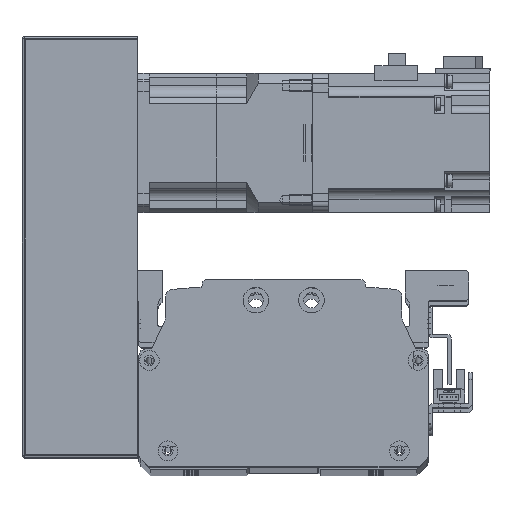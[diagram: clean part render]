
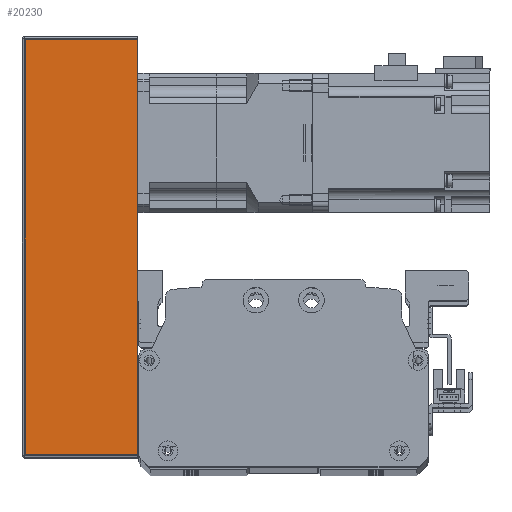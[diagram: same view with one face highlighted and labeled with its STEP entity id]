
A CAD part, top view. The second image highlights one B-rep face of the part: STEP entity #20230.
In plain terms, the highlighted planar face has unit normal (0, 0, 1) as drawn and (0, -1, 0) by its records, which use the part's own axes.
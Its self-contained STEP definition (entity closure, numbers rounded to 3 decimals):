
#604=PLANE('',#22258);
#1823=LINE('',#33440,#3447);
#1832=LINE('',#33479,#3456);
#1835=LINE('',#33489,#3459);
#1836=LINE('',#33491,#3460);
#3447=VECTOR('',#27062,10.);
#3456=VECTOR('',#27111,10.);
#3459=VECTOR('',#27128,10.);
#3460=VECTOR('',#27131,10.);
#5906=FACE_OUTER_BOUND('',#7422,.T.);
#7422=EDGE_LOOP('',(#17415,#17416,#17417,#17418));
#10365=VERTEX_POINT('',#33437);
#10366=VERTEX_POINT('',#33439);
#10375=VERTEX_POINT('',#33476);
#10376=VERTEX_POINT('',#33478);
#12845=EDGE_CURVE('',#10365,#10366,#1823,.T.);
#12865=EDGE_CURVE('',#10375,#10376,#1832,.T.);
#12871=EDGE_CURVE('',#10376,#10365,#1835,.T.);
#12872=EDGE_CURVE('',#10366,#10375,#1836,.T.);
#17415=ORIENTED_EDGE('',*,*,#12865,.F.);
#17416=ORIENTED_EDGE('',*,*,#12872,.F.);
#17417=ORIENTED_EDGE('',*,*,#12845,.F.);
#17418=ORIENTED_EDGE('',*,*,#12871,.F.);
#20230=ADVANCED_FACE('',(#5906),#604,.T.);
#22258=AXIS2_PLACEMENT_3D('',#33490,#27129,#27130);
#27062=DIRECTION('',(1.,0.,0.));
#27111=DIRECTION('',(-1.,0.,0.));
#27128=DIRECTION('',(0.,0.,1.));
#27129=DIRECTION('center_axis',(0.,-1.,0.));
#27130=DIRECTION('ref_axis',(1.,0.,0.));
#27131=DIRECTION('',(0.,0.,-1.));
#33437=CARTESIAN_POINT('',(-90.,-38.,25.));
#33439=CARTESIAN_POINT('',(90.,-38.,25.));
#33440=CARTESIAN_POINT('',(91.,-38.,25.));
#33476=CARTESIAN_POINT('',(90.,-38.,-24.));
#33478=CARTESIAN_POINT('',(-90.,-38.,-24.));
#33479=CARTESIAN_POINT('',(-45.5,-38.,-24.));
#33489=CARTESIAN_POINT('',(-90.,-38.,0.));
#33490=CARTESIAN_POINT('Origin',(-91.,-38.,0.));
#33491=CARTESIAN_POINT('',(90.,-38.,0.));
